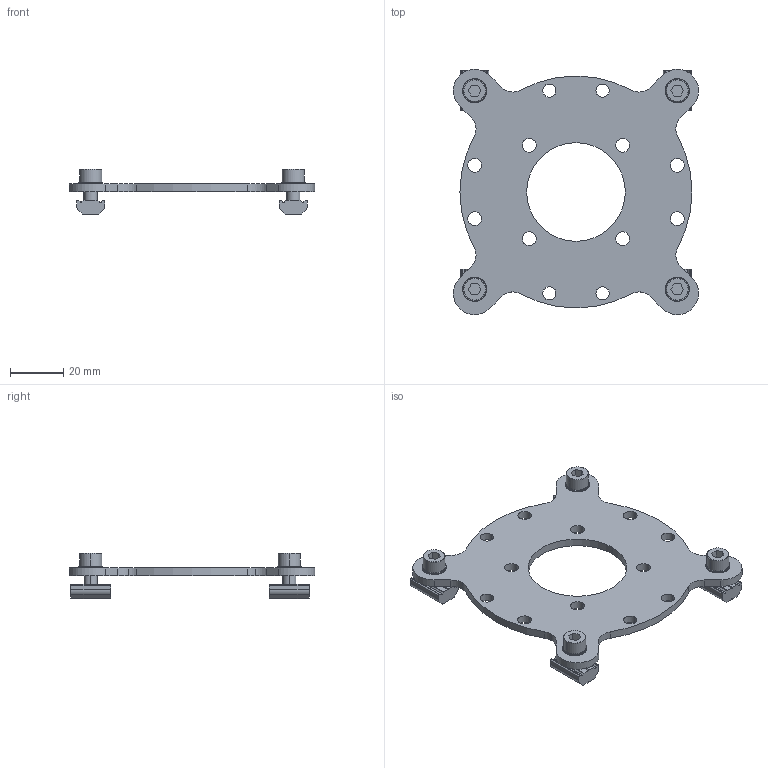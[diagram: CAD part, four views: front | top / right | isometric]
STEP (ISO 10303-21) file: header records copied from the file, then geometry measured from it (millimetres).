
FILE_DESCRIPTION (( 'STEP AP214' ), '1' );
FILE_NAME ('SIP-90B.STEP', '2019-10-30T06:14:06', ( '微软用户' ), ( '微软中国' ), 'SwSTEP 2.0', 'SolidWorks 2016', '' );
FILE_SCHEMA (( 'AUTOMOTIVE_DESIGN' ));
Length unit declared in the file: millimetre
Products named in the file (5): PTN-M5; PTS-M5; PTC-M5L12; SIP-90B
Assembly tree (13 placements, depth 2):
  SIP-90B
    SIP-90B
    PTC-M5L12  x4
    PTS-M5  x4
    PTN-M5  x4
Bounding box: 91.97 x 91.97 x 17 mm (x, y, z)
Volume: 21439.7 mm3; surface area: 18313.3 mm2
Topology: 13 solids, 13 shells, 969 faces, 2829 edges, 1878 vertices
Faces by surface type: plane 786, cylinder 159, cone 24
Entity records: 10141 total; most frequent: CARTESIAN_POINT 1816, DIRECTION 1771, ORIENTED_EDGE 1698, EDGE_CURVE 849, AXIS2_PLACEMENT_3D 631, VERTEX_POINT 564, VECTOR 509, LINE 509
